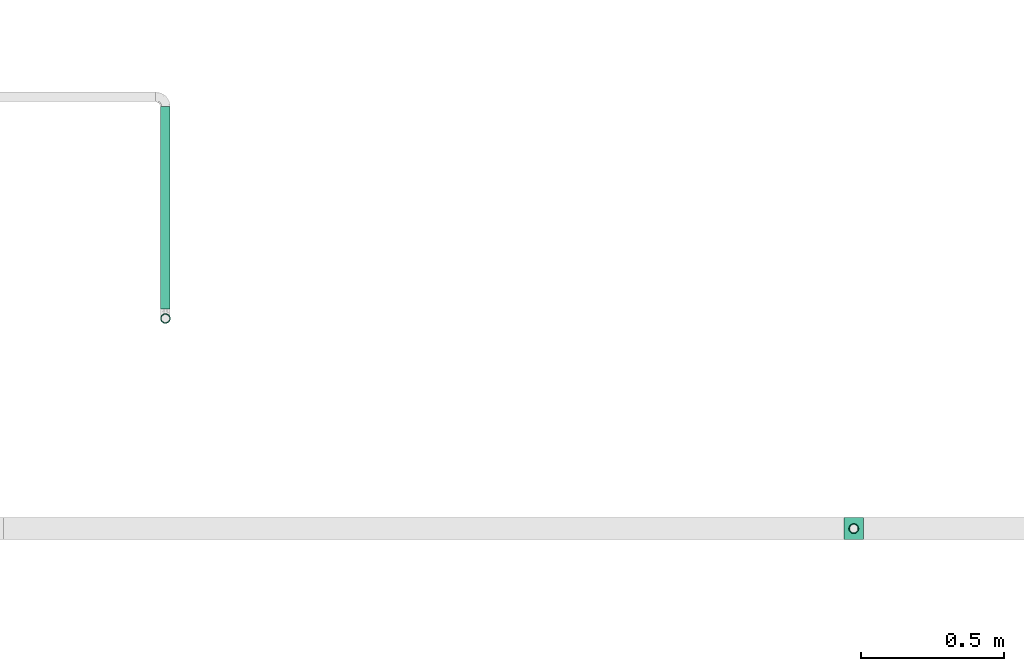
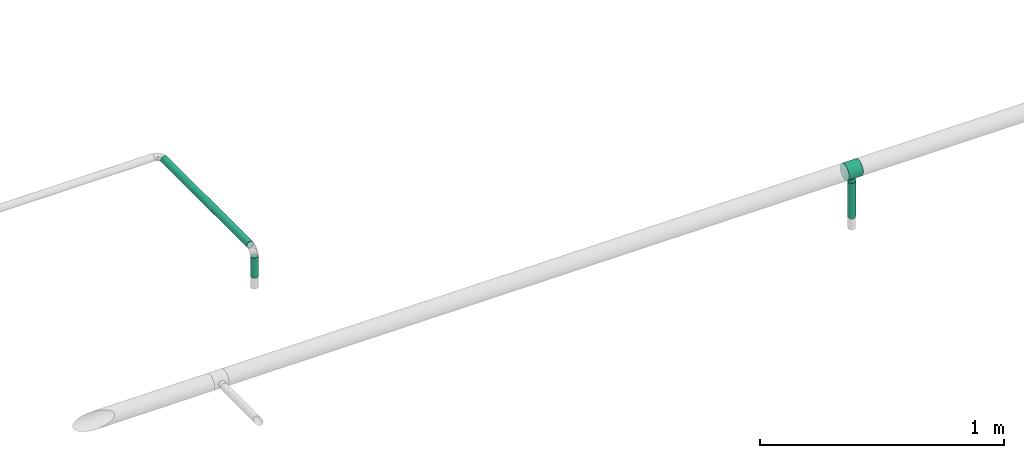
# One storey, part 9 of 45: 3 flow segments, 1 flow fitting.
"""IFC2X3 building model written with IfcOpenShell, lengths in millimetres."""

from ifc_helpers import new_model, entity, si_unit, converted_unit, derived_unit, direction, frame, origin_with_axes, origin_2d_with_axis, place, context, subcontext, project, spatial, hollow_circle, extrude, open_shell, surface_model, source, transform, mapped, type_object, element, save


model = new_model("IFC2X3")

# Units and contexts
model_context = context("Model", 3, precision=0.01, world=frame((0.0, 4.29681676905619e-09, 0.0)), true_north=direction((4.01073788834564e-13, 1.0)))
plan_context = context("Plan", 3, precision=0.01, world=frame((0.0, 4.29681676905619e-09, 0.0)), true_north=direction((4.01073788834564e-13, 1.0)))
body_context = subcontext(model_context, "Body", "Model", "MODEL_VIEW")
ifc_project = project(units=[converted_unit("PLANEANGLEUNIT", "DEGREE", entity("IfcPositiveLengthMeasure", 0.0174532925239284), si_unit("PLANEANGLEUNIT", "RADIAN"), dimensions=[0, 0, 0, 0, 0, 0, 0]), si_unit("AREAUNIT", "SQUARE_METRE"), si_unit("LENGTHUNIT", "METRE", prefix="MILLI"), si_unit("MASSUNIT", "GRAM", prefix="KILO"), si_unit("POWERUNIT", "WATT"), si_unit("PRESSUREUNIT", "PASCAL", prefix="KILO"), si_unit("FORCEUNIT", "NEWTON", prefix="KILO"), si_unit("ELECTRICVOLTAGEUNIT", "VOLT"), si_unit("ELECTRICCURRENTUNIT", "AMPERE"), si_unit("THERMODYNAMICTEMPERATUREUNIT", "DEGREE_CELSIUS"), si_unit("TIMEUNIT", "SECOND"), si_unit("VOLUMEUNIT", "CUBIC_METRE"), derived_unit("LINEARVELOCITYUNIT", [(si_unit("LENGTHUNIT", "METRE"), 1), (si_unit("TIMEUNIT", "SECOND"), -1)]), derived_unit("VOLUMETRICFLOWRATEUNIT", [(si_unit("VOLUMEUNIT", "CUBIC_METRE"), 1), (si_unit("TIMEUNIT", "SECOND"), -1)]), derived_unit("THERMALTRANSMITTANCEUNIT", [(si_unit("POWERUNIT", "WATT"), 1), (si_unit("THERMODYNAMICTEMPERATUREUNIT", "KELVIN"), -1), (si_unit("AREAUNIT", "SQUARE_METRE"), -1)]), derived_unit("SOUNDPRESSUREUNIT", [(si_unit("PRESSUREUNIT", "PASCAL"), 1)])], contexts=[model_context, plan_context])

# Site, building, storey
site_placement = place(None, frame((0.0, -4.29681676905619e-09, 0.0), z_axis=(0.0, 0.0, 1.0), x_axis=(1.0, 0.0, 0.0)))
site = spatial("IfcSite", under=ifc_project, at=site_placement, CompositionType="ELEMENT")
building_placement = place(site_placement, frame((0.0, 4.29681676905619e-09, 0.0), z_axis=(0.0, 0.0, 1.0), x_axis=(1.0, 0.0, 0.0)))
building = spatial("IfcBuilding", under=site, at=building_placement, Name="mc-building", CompositionType="ELEMENT")
storey_placement = place(building_placement, frame((0.0, 0.0, 210200.0), z_axis=(0.0, 0.0, 1.0), x_axis=(1.0, 0.0, 0.0)))
storey = spatial("IfcBuildingStorey", under=building, at=storey_placement, Name="Nivå F - 0,7 m", CompositionType="ELEMENT", Elevation=210200.0)

# Flow fitting
pipe_fitting_type = type_object("IfcPipeFittingType", Name="magi_pipe_fe_tee_centric_90_001", PredefinedType="JUNCTION")
shared_shape_1 = source(origin_with_axes(), body_context, "Body", "SurfaceModel", [
    surface_model("IfcShellBasedSurfaceModel", [(-33.8, 9.86101, -36.80177), (-33.8, 0.0, -38.1), (-33.8, 36.80177, -9.86101), (-33.8, 19.05, -32.99557), (-33.8, 32.99557, -19.05), (-33.8, 26.94077, -26.94077), (-33.8, -38.1, 0.0), (-33.8, -19.05, -32.99557), (-33.8, -26.94077, -26.94077), (-33.8, -9.86101, -36.80177), (-33.8, -32.99557, -19.05), (-33.8, -36.80177, -9.86101), (-33.8, 38.1, 0.0), (-33.8, 32.99557, 19.05), (-33.8, 36.80177, 9.86101), (-33.8, -36.80177, 9.86101), (-33.8, 19.05, 32.99557), (-33.8, 26.94077, 26.94077), (-33.8, 9.86101, 36.80177), (-33.8, 0.0, 38.1), (-33.8, -26.94077, 26.94077), (-33.8, -32.99557, 19.05), (-33.8, -9.86101, 36.80177), (-33.8, -19.05, 32.99557), (33.8, 0.0, -38.1), (33.8, 9.86101, -36.80177), (33.8, 19.05, -32.99557), (33.8, 26.94077, -26.94077), (33.8, 32.99557, -19.05), (33.8, 36.80177, -9.86101), (33.8, -38.1, 0.0), (33.8, -9.86101, -36.80177), (33.8, -26.94077, -26.94077), (33.8, -19.05, -32.99557), (33.8, -32.99557, -19.05), (33.8, -36.80177, -9.86101), (33.8, 36.80177, 9.86101), (33.8, 32.99557, 19.05), (33.8, 19.05, 32.99557), (33.8, 0.0, 38.1), (33.8, 26.94077, 26.94077), (33.8, 9.86101, 36.80177), (33.8, -26.94077, 26.94077), (33.8, -32.99557, 19.05), (33.8, -36.80177, 9.86101), (33.8, -19.05, 32.99557), (33.8, -9.86101, 36.80177), (33.8, 38.1, 0.0), (33.8, -37.45089, 4.9305), (15.86072, -37.65053, 5.83504), (16.9, -38.1, 0.0), (12.92726, -36.51183, 10.88559), (2.96752, -34.27545, 16.63742), (33.8, -34.89867, 14.4555), (8.48894, -35.18611, 14.61328), (-8.4904, -35.18646, 14.61243), (-33.8, -34.89867, 14.4555), (-15.8612, -37.65073, 5.83372), (-33.8, -37.45089, 4.9305), (-16.9, -38.1, 0.0), (-12.9317, -36.51341, 10.88031), (-2.97221, -34.27585, 16.63658), (-33.8, -37.45089, -4.9305), (-15.8612, -37.65073, -5.83372), (15.86072, -37.65053, -5.83504), (33.8, -37.45089, -4.9305), (-12.9317, -36.51341, -10.88031), (-33.8, -34.89867, -14.4555), (-8.4904, -35.18646, -14.61243), (2.96752, -34.27545, -16.63742), (8.48894, -35.18611, -14.61328), (33.8, -34.89867, -14.4555), (12.92726, -36.51183, -10.88559), (-2.97221, -34.27585, -16.63658), (4.37404, -57.15, -16.32415), (-16.9, -57.15, 0.0), (0.0, -57.15, -16.9), (14.63583, -57.15, -8.45), (8.45, -57.15, -14.63583), (16.32415, -57.15, -4.37404), (11.9501, -57.15, -11.9501), (-11.9501, -57.15, -11.9501), (-8.45, -57.15, -14.63583), (-4.37404, -57.15, -16.32415), (-14.63583, -57.15, -8.45), (-16.32415, -57.15, -4.37404), (16.9, -57.15, 0.0), (8.45, -57.15, 14.63583), (16.32415, -57.15, 4.37404), (14.63583, -57.15, 8.45), (-8.45, -57.15, 14.63583), (11.9501, -57.15, 11.9501), (4.37404, -57.15, 16.32415), (-16.32415, -57.15, 4.37404), (-11.9501, -57.15, 11.9501), (-14.63583, -57.15, 8.45), (0.0, -57.15, 16.9), (-4.37404, -57.15, 16.32415), (-16.3806, -37.87537, 2.91686), (-5.7313, -34.73116, 15.62451), (-0.00235, -34.27565, 16.637), (5.72823, -34.73078, 15.62535), (16.38036, -37.87526, 2.91752), (16.38036, -37.87526, -2.91752), (5.72823, -34.73078, -15.62535), (-0.00235, -34.27565, -16.637), (-5.7313, -34.73116, -15.62451), (-16.3806, -37.87537, -2.91686)], [open_shell([[[0, 1, 2]], [[3, 0, 2]], [[2, 4, 5]], [[3, 2, 5]], [[6, 2, 1]], [[7, 8, 9]], [[8, 1, 9]], [[10, 11, 8]], [[6, 8, 11]], [[8, 6, 1]], [[6, 12, 2]], [[13, 14, 12]], [[15, 13, 6]], [[16, 13, 15]], [[17, 13, 16]], [[18, 16, 19]], [[20, 19, 21]], [[16, 15, 21]], [[22, 19, 23]], [[20, 23, 19]], [[21, 19, 16]], [[12, 6, 13]], [[24, 25, 26]], [[24, 26, 27]], [[27, 28, 29]], [[24, 27, 30]], [[30, 27, 29]], [[31, 32, 33]], [[31, 24, 32]], [[34, 30, 35]], [[30, 34, 32]], [[24, 30, 32]], [[29, 36, 30]], [[36, 37, 30]], [[30, 37, 38]], [[38, 39, 30]], [[38, 37, 40]], [[39, 38, 41]], [[30, 42, 43]], [[44, 30, 43]], [[45, 39, 46]], [[45, 42, 30]], [[30, 39, 45]], [[36, 29, 47]], [[48, 44, 49]], [[50, 30, 48]], [[44, 51, 49]], [[43, 42, 52]], [[50, 48, 49]], [[44, 53, 51]], [[52, 54, 43]], [[42, 20, 52]], [[54, 53, 43]], [[55, 21, 56]], [[57, 58, 59]], [[6, 59, 58]], [[57, 60, 15]], [[55, 61, 21]], [[51, 53, 54]], [[15, 60, 56]], [[21, 61, 20]], [[56, 60, 55]], [[61, 52, 20]], [[57, 15, 58]], [[42, 23, 20]], [[19, 46, 39]], [[22, 45, 46]], [[18, 39, 41]], [[37, 36, 14]], [[17, 38, 40]], [[13, 40, 37]], [[41, 38, 16]], [[12, 36, 47]], [[23, 45, 22]], [[22, 46, 19]], [[18, 19, 39]], [[41, 16, 18]], [[16, 38, 17]], [[13, 17, 40]], [[14, 13, 37]], [[36, 12, 14]], [[45, 23, 42]], [[12, 47, 29]], [[29, 28, 2]], [[59, 62, 63]], [[27, 4, 28]], [[9, 24, 31]], [[0, 26, 25]], [[64, 35, 65]], [[24, 1, 25]], [[31, 33, 7]], [[27, 26, 5]], [[66, 67, 68]], [[4, 2, 28]], [[12, 29, 2]], [[27, 5, 4]], [[3, 26, 0]], [[26, 3, 5]], [[0, 25, 1]], [[9, 1, 24]], [[31, 7, 9]], [[33, 8, 7]], [[32, 34, 69]], [[70, 34, 71]], [[70, 69, 34]], [[35, 72, 71]], [[32, 69, 8]], [[30, 50, 65]], [[64, 72, 35]], [[64, 65, 50]], [[72, 70, 71]], [[73, 68, 10]], [[10, 8, 73]], [[68, 67, 10]], [[73, 8, 69]], [[66, 63, 11]], [[63, 62, 11]], [[62, 59, 6]], [[11, 67, 66]], [[32, 8, 33]], [[74, 75, 76]], [[77, 74, 78]], [[77, 79, 74]], [[77, 78, 80]], [[75, 74, 79]], [[76, 81, 82]], [[82, 83, 76]], [[84, 75, 85]], [[81, 76, 84]], [[75, 84, 76]], [[79, 86, 75]], [[87, 86, 88]], [[87, 88, 89]], [[90, 75, 87]], [[87, 89, 91]], [[90, 87, 92]], [[93, 94, 95]], [[94, 93, 90]], [[90, 96, 97]], [[93, 75, 90]], [[92, 96, 90]], [[87, 75, 86]], [[93, 98, 75]], [[60, 95, 94]], [[93, 95, 57]], [[94, 90, 55]], [[98, 59, 75]], [[57, 95, 60]], [[97, 61, 99]], [[55, 60, 94]], [[96, 52, 100]], [[87, 101, 92]], [[99, 90, 97]], [[99, 55, 90]], [[93, 57, 98]], [[92, 52, 96]], [[49, 89, 88]], [[102, 86, 50]], [[102, 49, 88]], [[91, 89, 51]], [[96, 61, 97]], [[101, 52, 92]], [[87, 54, 101]], [[87, 91, 54]], [[54, 91, 51]], [[51, 89, 49]], [[86, 102, 88]], [[100, 61, 96]], [[79, 103, 86]], [[72, 77, 80]], [[79, 77, 64]], [[80, 78, 70]], [[103, 50, 86]], [[64, 77, 72]], [[74, 69, 104]], [[70, 72, 80]], [[76, 73, 105]], [[82, 106, 83]], [[107, 75, 59]], [[104, 78, 74]], [[104, 70, 78]], [[68, 82, 81]], [[79, 64, 103]], [[63, 84, 85]], [[107, 63, 85]], [[84, 66, 81]], [[76, 69, 74]], [[83, 106, 73]], [[73, 76, 83]], [[68, 106, 82]], [[68, 81, 66]], [[66, 84, 63]], [[75, 107, 85]], [[105, 69, 76]]])]),
])
flow_fitting_placement = place(storey_placement, frame((332518.61043, 460120.00018, 2938.0), z_axis=(0.0, 1.0, 0.0), x_axis=(-1.0, 0.0, 0.0)))
element("IfcFlowFitting", 1, at=flow_fitting_placement, inside=storey, type_object=pipe_fitting_type, Name="magi_pipe_fe_tee_centric_90_001", context=body_context, shape_type="MappedRepresentation", body=[
    mapped(shared_shape_1, transform((0.0, 0.0, 0.0), scale=1.0)),
])

# Flow segments
pipe_segment_type = type_object("IfcPipeSegmentType", Name="Stålrør normaltykke", PredefinedType="RIGIDSEGMENT")
shared_shape_2 = source(origin_with_axes(), body_context, "Body", "SweptSolid", [
    extrude(hollow_circle(Radius=16.9, WallThickness=2.0, at=origin_2d_with_axis()), frame((0.0, 0.0, 0.0), z_axis=(1.0, 0.0, 0.0), x_axis=(0.0, 1.0, 0.0)), (0.0, 0.0, 1.0), 176.9),
])
flow_segment_1_placement = place(storey_placement, frame((332518.61043, 460120.00018, 2703.95199999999), z_axis=(1.0, 0.0, 0.0), x_axis=(0.0, 0.0, 1.0)))
element("IfcFlowSegment", 2, at=flow_segment_1_placement, inside=storey, type_object=pipe_segment_type, Name="Stålrør normaltykke", context=body_context, shape_type="MappedRepresentation", body=[
    mapped(shared_shape_2, transform((0.0, 0.0, 0.0), scale=1.0)),
])
shared_shape_3 = source(origin_with_axes(), body_context, "Body", "SweptSolid", [
    extrude(hollow_circle(Radius=16.9, WallThickness=2.0, at=origin_2d_with_axis()), frame((0.0, 0.0, 0.0), z_axis=(1.0, 0.0, 0.0), x_axis=(0.0, 1.0, 0.0)), (0.0, 0.0, 1.0), 706.6),
])
flow_segment_2_placement = place(storey_placement, frame((330113.5, 460887.97064, 2938.0), z_axis=(0.0, 0.0, 1.0), x_axis=(0.0, 1.0, 0.0)))
element("IfcFlowSegment", 3, at=flow_segment_2_placement, inside=storey, type_object=pipe_segment_type, Name="Stålrør normaltykke", context=body_context, shape_type="MappedRepresentation", body=[
    mapped(shared_shape_3, transform((0.0, 0.0, 0.0), scale=1.0)),
])
shared_shape_4 = source(origin_with_axes(), body_context, "Body", "SweptSolid", [
    extrude(hollow_circle(Radius=16.9, WallThickness=2.0, at=origin_2d_with_axis()), frame((0.0, 0.0, 0.0), z_axis=(1.0, 0.0, 0.0), x_axis=(0.0, 1.0, 0.0)), (0.0, 0.0, 1.0), 100.2),
])
flow_segment_3_placement = place(storey_placement, frame((330113.5, 460854.17064, 2803.95199999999), z_axis=(1.0, 0.0, 0.0), x_axis=(0.0, 0.0, 1.0)))
element("IfcFlowSegment", 4, at=flow_segment_3_placement, inside=storey, type_object=pipe_segment_type, Name="Stålrør normaltykke", context=body_context, shape_type="MappedRepresentation", body=[
    mapped(shared_shape_4, transform((0.0, 0.0, 0.0), scale=1.0)),
])

save(model, "model.ifc")
